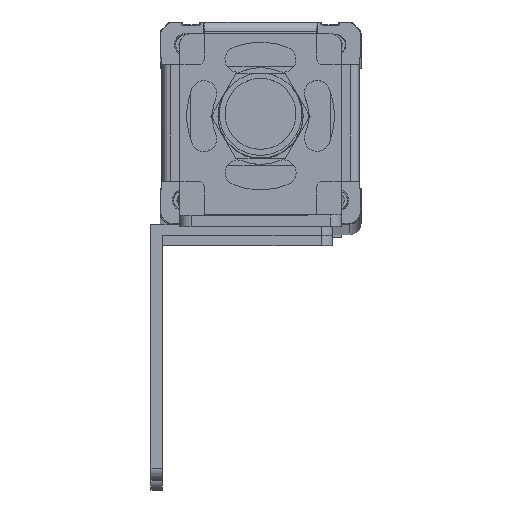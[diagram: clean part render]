
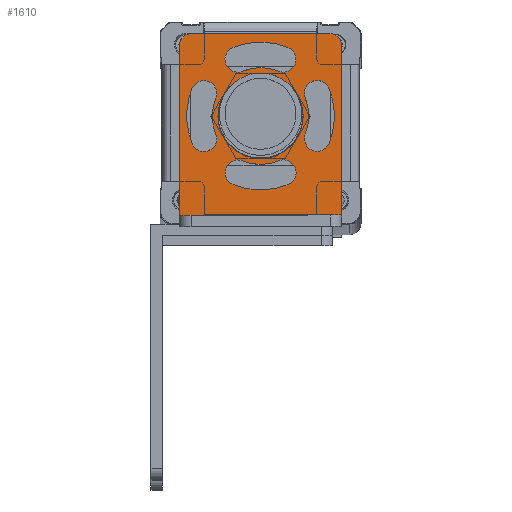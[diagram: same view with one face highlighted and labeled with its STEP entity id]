
A CAD part, top view. The second image highlights one B-rep face of the part: STEP entity #1610.
In plain terms, the highlighted planar face has unit normal (0, 0, 1).
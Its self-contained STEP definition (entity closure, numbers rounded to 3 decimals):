
#470=FACE_BOUND('',#3095,.T.);
#471=FACE_BOUND('',#3096,.T.);
#472=FACE_BOUND('',#3097,.T.);
#473=FACE_BOUND('',#3098,.T.);
#474=FACE_BOUND('',#3099,.T.);
#475=FACE_BOUND('',#3100,.T.);
#1046=CIRCLE('',#12267,7.5);
#1047=CIRCLE('',#12269,7.5);
#1048=CIRCLE('',#12271,2.);
#1049=CIRCLE('',#12272,2.);
#1050=CIRCLE('',#12273,8.5);
#1051=CIRCLE('',#12274,2.25);
#1052=CIRCLE('',#12275,13.);
#1053=CIRCLE('',#12276,2.25);
#1054=CIRCLE('',#12277,13.);
#1055=CIRCLE('',#12278,2.25);
#1056=CIRCLE('',#12279,8.5);
#1057=CIRCLE('',#12280,2.25);
#1058=CIRCLE('',#12281,13.);
#1059=CIRCLE('',#12282,2.25);
#1060=CIRCLE('',#12283,8.5);
#1061=CIRCLE('',#12284,2.25);
#1062=CIRCLE('',#12285,13.);
#1063=CIRCLE('',#12286,2.25);
#1064=CIRCLE('',#12287,8.5);
#1065=CIRCLE('',#12288,2.25);
#1610=ADVANCED_FACE('',(#470,#471,#472,#473,#474,#475),#1961,.T.);
#1961=PLANE('',#12289);
#3095=EDGE_LOOP('',(#6187,#6188,#6189,#6190,#6191,#6192));
#3096=EDGE_LOOP('',(#6193,#6194));
#3097=EDGE_LOOP('',(#6195,#6196,#6197,#6198));
#3098=EDGE_LOOP('',(#6199,#6200,#6201,#6202));
#3099=EDGE_LOOP('',(#6203,#6204,#6205,#6206));
#3100=EDGE_LOOP('',(#6207,#6208,#6209,#6210));
#6187=ORIENTED_EDGE('',*,*,#8998,.T.);
#6188=ORIENTED_EDGE('',*,*,#8999,.T.);
#6189=ORIENTED_EDGE('',*,*,#9000,.T.);
#6190=ORIENTED_EDGE('',*,*,#9001,.F.);
#6191=ORIENTED_EDGE('',*,*,#9002,.T.);
#6192=ORIENTED_EDGE('',*,*,#9003,.T.);
#6193=ORIENTED_EDGE('',*,*,#8997,.F.);
#6194=ORIENTED_EDGE('',*,*,#8995,.F.);
#6195=ORIENTED_EDGE('',*,*,#9004,.F.);
#6196=ORIENTED_EDGE('',*,*,#9005,.F.);
#6197=ORIENTED_EDGE('',*,*,#9006,.F.);
#6198=ORIENTED_EDGE('',*,*,#9007,.F.);
#6199=ORIENTED_EDGE('',*,*,#9008,.F.);
#6200=ORIENTED_EDGE('',*,*,#9009,.F.);
#6201=ORIENTED_EDGE('',*,*,#9010,.F.);
#6202=ORIENTED_EDGE('',*,*,#9011,.F.);
#6203=ORIENTED_EDGE('',*,*,#9012,.F.);
#6204=ORIENTED_EDGE('',*,*,#9013,.F.);
#6205=ORIENTED_EDGE('',*,*,#9014,.F.);
#6206=ORIENTED_EDGE('',*,*,#9015,.F.);
#6207=ORIENTED_EDGE('',*,*,#9016,.F.);
#6208=ORIENTED_EDGE('',*,*,#9017,.F.);
#6209=ORIENTED_EDGE('',*,*,#9018,.F.);
#6210=ORIENTED_EDGE('',*,*,#9019,.F.);
#7415=VERTEX_POINT('',#18786);
#7416=VERTEX_POINT('',#18788);
#7417=VERTEX_POINT('',#18794);
#7418=VERTEX_POINT('',#18795);
#7419=VERTEX_POINT('',#18797);
#7420=VERTEX_POINT('',#18799);
#7421=VERTEX_POINT('',#18801);
#7422=VERTEX_POINT('',#18803);
#7423=VERTEX_POINT('',#18806);
#7424=VERTEX_POINT('',#18807);
#7425=VERTEX_POINT('',#18809);
#7426=VERTEX_POINT('',#18811);
#7427=VERTEX_POINT('',#18814);
#7428=VERTEX_POINT('',#18815);
#7429=VERTEX_POINT('',#18817);
#7430=VERTEX_POINT('',#18819);
#7431=VERTEX_POINT('',#18822);
#7432=VERTEX_POINT('',#18823);
#7433=VERTEX_POINT('',#18825);
#7434=VERTEX_POINT('',#18827);
#7435=VERTEX_POINT('',#18830);
#7436=VERTEX_POINT('',#18831);
#7437=VERTEX_POINT('',#18833);
#7438=VERTEX_POINT('',#18835);
#8995=EDGE_CURVE('',#7415,#7416,#1046,.T.);
#8997=EDGE_CURVE('',#7416,#7415,#1047,.T.);
#8998=EDGE_CURVE('',#7417,#7418,#10119,.T.);
#8999=EDGE_CURVE('',#7418,#7419,#1048,.T.);
#9000=EDGE_CURVE('',#7419,#7420,#10120,.T.);
#9001=EDGE_CURVE('',#7421,#7420,#10121,.T.);
#9002=EDGE_CURVE('',#7421,#7422,#10122,.T.);
#9003=EDGE_CURVE('',#7422,#7417,#1049,.T.);
#9004=EDGE_CURVE('',#7423,#7424,#1050,.T.);
#9005=EDGE_CURVE('',#7425,#7423,#1051,.T.);
#9006=EDGE_CURVE('',#7426,#7425,#1052,.T.);
#9007=EDGE_CURVE('',#7424,#7426,#1053,.T.);
#9008=EDGE_CURVE('',#7427,#7428,#1054,.T.);
#9009=EDGE_CURVE('',#7429,#7427,#1055,.T.);
#9010=EDGE_CURVE('',#7430,#7429,#1056,.T.);
#9011=EDGE_CURVE('',#7428,#7430,#1057,.T.);
#9012=EDGE_CURVE('',#7431,#7432,#1058,.T.);
#9013=EDGE_CURVE('',#7433,#7431,#1059,.T.);
#9014=EDGE_CURVE('',#7434,#7433,#1060,.T.);
#9015=EDGE_CURVE('',#7432,#7434,#1061,.T.);
#9016=EDGE_CURVE('',#7435,#7436,#1062,.T.);
#9017=EDGE_CURVE('',#7437,#7435,#1063,.T.);
#9018=EDGE_CURVE('',#7438,#7437,#1064,.T.);
#9019=EDGE_CURVE('',#7436,#7438,#1065,.T.);
#10119=LINE('',#18793,#11206);
#10120=LINE('',#18798,#11207);
#10121=LINE('',#18800,#11208);
#10122=LINE('',#18802,#11209);
#11206=VECTOR('',#15419,1.);
#11207=VECTOR('',#15422,1.);
#11208=VECTOR('',#15423,1.);
#11209=VECTOR('',#15424,1.);
#12267=AXIS2_PLACEMENT_3D('',#18787,#15410,#15411);
#12269=AXIS2_PLACEMENT_3D('',#18791,#15415,#15416);
#12271=AXIS2_PLACEMENT_3D('',#18796,#15420,#15421);
#12272=AXIS2_PLACEMENT_3D('',#18804,#15425,#15426);
#12273=AXIS2_PLACEMENT_3D('',#18805,#15427,#15428);
#12274=AXIS2_PLACEMENT_3D('',#18808,#15429,#15430);
#12275=AXIS2_PLACEMENT_3D('',#18810,#15431,#15432);
#12276=AXIS2_PLACEMENT_3D('',#18812,#15433,#15434);
#12277=AXIS2_PLACEMENT_3D('',#18813,#15435,#15436);
#12278=AXIS2_PLACEMENT_3D('',#18816,#15437,#15438);
#12279=AXIS2_PLACEMENT_3D('',#18818,#15439,#15440);
#12280=AXIS2_PLACEMENT_3D('',#18820,#15441,#15442);
#12281=AXIS2_PLACEMENT_3D('',#18821,#15443,#15444);
#12282=AXIS2_PLACEMENT_3D('',#18824,#15445,#15446);
#12283=AXIS2_PLACEMENT_3D('',#18826,#15447,#15448);
#12284=AXIS2_PLACEMENT_3D('',#18828,#15449,#15450);
#12285=AXIS2_PLACEMENT_3D('',#18829,#15451,#15452);
#12286=AXIS2_PLACEMENT_3D('',#18832,#15453,#15454);
#12287=AXIS2_PLACEMENT_3D('',#18834,#15455,#15456);
#12288=AXIS2_PLACEMENT_3D('',#18836,#15457,#15458);
#12289=AXIS2_PLACEMENT_3D('',#18837,#15459,#15460);
#15410=DIRECTION('',(0.,0.,1.));
#15411=DIRECTION('',(-1.,-0.002,0.));
#15415=DIRECTION('',(0.,0.,1.));
#15416=DIRECTION('',(1.,0.002,0.));
#15419=DIRECTION('',(-1.,-0.002,0.));
#15420=DIRECTION('',(0.,0.,1.));
#15421=DIRECTION('',(-0.002,1.,0.));
#15422=DIRECTION('',(0.002,-1.,0.));
#15423=DIRECTION('',(-1.,-0.002,0.));
#15424=DIRECTION('',(-0.002,1.,0.));
#15425=DIRECTION('',(0.,0.,1.));
#15426=DIRECTION('',(1.,0.002,0.));
#15427=DIRECTION('',(0.,0.,-1.));
#15428=DIRECTION('',(0.928,0.374,0.));
#15429=DIRECTION('',(0.,0.,1.));
#15430=DIRECTION('',(0.928,0.374,0.));
#15431=DIRECTION('',(0.,0.,1.));
#15432=DIRECTION('',(0.929,-0.371,0.));
#15433=DIRECTION('',(0.,0.,1.));
#15434=DIRECTION('',(-0.929,0.371,0.));
#15435=DIRECTION('',(0.,0.,1.));
#15436=DIRECTION('',(-0.929,0.371,0.));
#15437=DIRECTION('',(0.,0.,1.));
#15438=DIRECTION('',(0.929,-0.371,0.));
#15439=DIRECTION('',(0.,0.,-1.));
#15440=DIRECTION('',(-0.928,-0.374,0.));
#15441=DIRECTION('',(0.,0.,1.));
#15442=DIRECTION('',(-0.928,-0.374,0.));
#15443=DIRECTION('',(0.,0.,1.));
#15444=DIRECTION('',(-0.371,-0.929,0.));
#15445=DIRECTION('',(0.,0.,1.));
#15446=DIRECTION('',(0.371,0.929,0.));
#15447=DIRECTION('',(0.,0.,-1.));
#15448=DIRECTION('',(0.374,-0.928,0.));
#15449=DIRECTION('',(0.,0.,1.));
#15450=DIRECTION('',(0.374,-0.928,0.));
#15451=DIRECTION('',(0.,0.,1.));
#15452=DIRECTION('',(0.371,0.929,0.));
#15453=DIRECTION('',(0.,0.,1.));
#15454=DIRECTION('',(-0.371,-0.929,0.));
#15455=DIRECTION('',(0.,0.,-1.));
#15456=DIRECTION('',(-0.374,0.928,0.));
#15457=DIRECTION('',(0.,0.,1.));
#15458=DIRECTION('',(-0.374,0.928,0.));
#15459=DIRECTION('',(0.,0.,1.));
#15460=DIRECTION('',(-1.,-0.002,0.));
#18786=CARTESIAN_POINT('',(243.846,-38.579,283.445));
#18787=CARTESIAN_POINT('',(251.346,-38.566,283.445));
#18788=CARTESIAN_POINT('',(258.846,-38.553,283.445));
#18791=CARTESIAN_POINT('',(251.346,-38.566,283.445));
#18793=CARTESIAN_POINT('',(263.572,-24.045,283.445));
#18794=CARTESIAN_POINT('',(263.572,-24.045,283.445));
#18795=CARTESIAN_POINT('',(239.072,-24.087,283.445));
#18796=CARTESIAN_POINT('',(239.075,-26.087,283.445));
#18797=CARTESIAN_POINT('',(237.075,-26.09,283.445));
#18798=CARTESIAN_POINT('',(237.075,-26.09,283.445));
#18799=CARTESIAN_POINT('',(237.126,-56.09,283.445));
#18800=CARTESIAN_POINT('',(265.626,-56.042,283.445));
#18801=CARTESIAN_POINT('',(265.626,-56.042,283.445));
#18802=CARTESIAN_POINT('',(265.626,-56.042,283.445));
#18803=CARTESIAN_POINT('',(265.575,-26.042,283.445));
#18804=CARTESIAN_POINT('',(263.575,-26.045,283.445));
#18805=CARTESIAN_POINT('',(251.346,-38.566,283.445));
#18806=CARTESIAN_POINT('',(259.231,-35.39,283.445));
#18807=CARTESIAN_POINT('',(259.241,-41.715,283.445));
#18808=CARTESIAN_POINT('',(261.318,-34.549,283.445));
#18809=CARTESIAN_POINT('',(263.405,-33.708,283.445));
#18810=CARTESIAN_POINT('',(251.346,-38.566,283.445));
#18811=CARTESIAN_POINT('',(263.421,-43.383,283.445));
#18812=CARTESIAN_POINT('',(261.331,-42.549,283.445));
#18813=CARTESIAN_POINT('',(251.346,-38.566,283.445));
#18814=CARTESIAN_POINT('',(239.272,-33.749,283.445));
#18815=CARTESIAN_POINT('',(239.288,-43.423,283.445));
#18816=CARTESIAN_POINT('',(241.362,-34.583,283.445));
#18817=CARTESIAN_POINT('',(243.451,-35.416,283.445));
#18818=CARTESIAN_POINT('',(251.346,-38.566,283.445));
#18819=CARTESIAN_POINT('',(243.462,-41.742,283.445));
#18820=CARTESIAN_POINT('',(241.375,-42.583,283.445));
#18821=CARTESIAN_POINT('',(251.346,-38.566,283.445));
#18822=CARTESIAN_POINT('',(246.529,-50.641,283.445));
#18823=CARTESIAN_POINT('',(256.204,-50.624,283.445));
#18824=CARTESIAN_POINT('',(247.363,-48.551,283.445));
#18825=CARTESIAN_POINT('',(248.197,-46.461,283.445));
#18826=CARTESIAN_POINT('',(251.346,-38.566,283.445));
#18827=CARTESIAN_POINT('',(254.522,-46.45,283.445));
#18828=CARTESIAN_POINT('',(255.363,-48.537,283.445));
#18829=CARTESIAN_POINT('',(251.346,-38.566,283.445));
#18830=CARTESIAN_POINT('',(256.163,-26.491,283.445));
#18831=CARTESIAN_POINT('',(246.489,-26.508,283.445));
#18832=CARTESIAN_POINT('',(255.33,-28.581,283.445));
#18833=CARTESIAN_POINT('',(254.496,-30.671,283.445));
#18834=CARTESIAN_POINT('',(251.346,-38.566,283.445));
#18835=CARTESIAN_POINT('',(248.17,-30.682,283.445));
#18836=CARTESIAN_POINT('',(247.33,-28.595,283.445));
#18837=CARTESIAN_POINT('',(251.346,-38.566,283.445));
